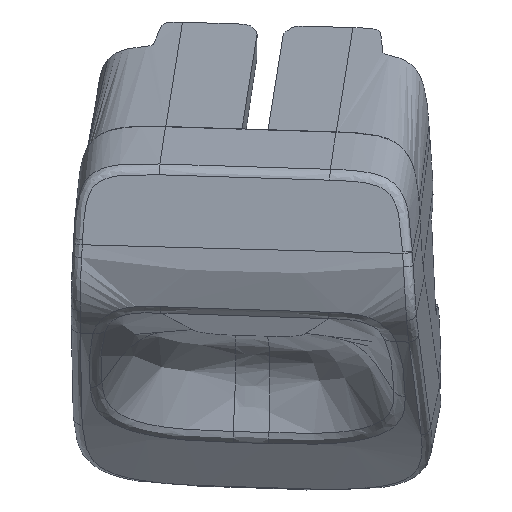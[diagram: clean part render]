
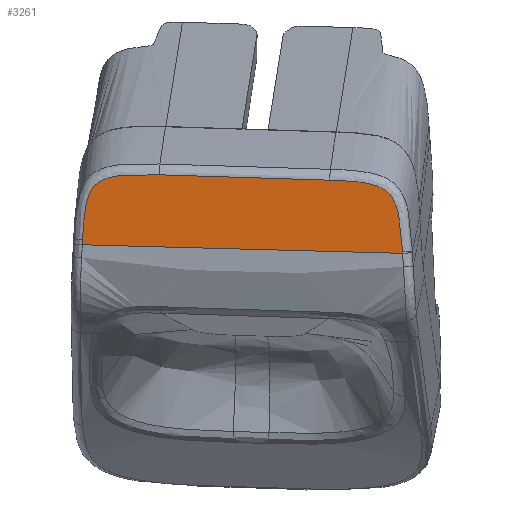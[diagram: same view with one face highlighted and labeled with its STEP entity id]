
A CAD part, top view. The second image highlights one B-rep face of the part: STEP entity #3261.
In plain terms, the highlighted free-form (B-spline) face has degree [1, 1] with [2, 2] control points.
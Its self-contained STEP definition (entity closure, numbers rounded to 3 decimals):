
#3099=CARTESIAN_POINT('Vertex',(-376.796,-964.624,531.923)) ;
#3103=CARTESIAN_POINT('Control Point',(-376.796,-964.624,531.923)) ;
#3104=CARTESIAN_POINT('Control Point',(-381.688,-964.494,531.722)) ;
#3105=CARTESIAN_POINT('Control Point',(-386.589,-964.364,531.52)) ;
#3106=CARTESIAN_POINT('Control Point',(-391.501,-964.233,531.318)) ;
#3107=CARTESIAN_POINT('Control Point',(-396.423,-964.101,531.116)) ;
#3108=CARTESIAN_POINT('Control Point',(-401.359,-963.968,530.913)) ;
#3109=CARTESIAN_POINT('Vertex',(-401.359,-963.968,530.913)) ;
#3168=CARTESIAN_POINT('Control Point',(13.237,-992.557,547.05)) ;
#3169=CARTESIAN_POINT('Control Point',(12.803,-864.692,553.743)) ;
#3170=CARTESIAN_POINT('Control Point',(-623.973,-978.279,520.691)) ;
#3171=CARTESIAN_POINT('Control Point',(-624.432,-850.414,527.383)) ;
#3173=CARTESIAN_POINT('Control Point',(-376.796,-964.624,531.923)) ;
#3174=CARTESIAN_POINT('Control Point',(-376.798,-964.585,531.925)) ;
#3175=CARTESIAN_POINT('Control Point',(-376.8,-964.546,531.927)) ;
#3176=CARTESIAN_POINT('Control Point',(-376.803,-964.505,531.929)) ;
#3177=CARTESIAN_POINT('Vertex',(-376.803,-964.505,531.929)) ;
#3181=CARTESIAN_POINT('Control Point',(-376.803,-964.505,531.929)) ;
#3182=CARTESIAN_POINT('Control Point',(-376.825,-964.088,531.95)) ;
#3183=CARTESIAN_POINT('Control Point',(-376.848,-963.672,531.971)) ;
#3184=CARTESIAN_POINT('Control Point',(-376.876,-963.262,531.991)) ;
#3185=CARTESIAN_POINT('Control Point',(-376.939,-962.551,532.026)) ;
#3186=CARTESIAN_POINT('Control Point',(-377.05,-961.858,532.058)) ;
#3187=CARTESIAN_POINT('Control Point',(-377.109,-961.567,532.07)) ;
#3188=CARTESIAN_POINT('Control Point',(-377.252,-961.018,532.093)) ;
#3189=CARTESIAN_POINT('Control Point',(-377.468,-960.526,532.11)) ;
#3190=CARTESIAN_POINT('Control Point',(-377.594,-960.305,532.116)) ;
#3191=CARTESIAN_POINT('Control Point',(-377.851,-959.98,532.122)) ;
#3192=CARTESIAN_POINT('Control Point',(-378.177,-959.738,532.121)) ;
#3193=CARTESIAN_POINT('Control Point',(-378.337,-959.643,532.119)) ;
#3194=CARTESIAN_POINT('Control Point',(-378.732,-959.453,532.112)) ;
#3195=CARTESIAN_POINT('Control Point',(-379.182,-959.317,532.1)) ;
#3196=CARTESIAN_POINT('Control Point',(-379.447,-959.256,532.092)) ;
#3197=CARTESIAN_POINT('Control Point',(-380.063,-959.146,532.072)) ;
#3198=CARTESIAN_POINT('Control Point',(-380.701,-959.087,532.048)) ;
#3199=CARTESIAN_POINT('Control Point',(-381.061,-959.065,532.034)) ;
#3200=CARTESIAN_POINT('Control Point',(-381.531,-959.043,532.015)) ;
#3201=CARTESIAN_POINT('Control Point',(-382.003,-959.027,531.996)) ;
#3202=CARTESIAN_POINT('Control Point',(-382.167,-959.022,531.989)) ;
#3203=CARTESIAN_POINT('Control Point',(-382.277,-959.018,531.984)) ;
#3204=CARTESIAN_POINT('Control Point',(-382.388,-959.015,531.98)) ;
#3205=CARTESIAN_POINT('Vertex',(-382.388,-959.015,531.98)) ;
#3209=CARTESIAN_POINT('Control Point',(-382.388,-959.015,531.98)) ;
#3210=CARTESIAN_POINT('Control Point',(-386.744,-958.878,531.802)) ;
#3211=CARTESIAN_POINT('Control Point',(-391.101,-958.74,531.624)) ;
#3212=CARTESIAN_POINT('Control Point',(-395.458,-958.603,531.445)) ;
#3213=CARTESIAN_POINT('Vertex',(-395.458,-958.603,531.445)) ;
#3217=CARTESIAN_POINT('Control Point',(-395.458,-958.603,531.445)) ;
#3218=CARTESIAN_POINT('Control Point',(-396.028,-958.585,531.422)) ;
#3219=CARTESIAN_POINT('Control Point',(-396.596,-958.568,531.399)) ;
#3220=CARTESIAN_POINT('Control Point',(-397.149,-958.559,531.376)) ;
#3221=CARTESIAN_POINT('Control Point',(-397.955,-958.579,531.34)) ;
#3222=CARTESIAN_POINT('Control Point',(-398.73,-958.684,531.302)) ;
#3223=CARTESIAN_POINT('Control Point',(-398.97,-958.727,531.289)) ;
#3224=CARTESIAN_POINT('Control Point',(-399.412,-958.833,531.265)) ;
#3225=CARTESIAN_POINT('Control Point',(-399.813,-958.991,531.24)) ;
#3226=CARTESIAN_POINT('Control Point',(-399.993,-959.081,531.227)) ;
#3227=CARTESIAN_POINT('Control Point',(-400.271,-959.258,531.206)) ;
#3228=CARTESIAN_POINT('Control Point',(-400.494,-959.486,531.185)) ;
#3229=CARTESIAN_POINT('Control Point',(-400.584,-959.6,531.175)) ;
#3230=CARTESIAN_POINT('Control Point',(-400.749,-959.863,531.154)) ;
#3231=CARTESIAN_POINT('Control Point',(-400.877,-960.169,531.133)) ;
#3232=CARTESIAN_POINT('Control Point',(-400.934,-960.333,531.122)) ;
#3233=CARTESIAN_POINT('Control Point',(-401.06,-960.764,531.094)) ;
#3234=CARTESIAN_POINT('Control Point',(-401.144,-961.219,531.066)) ;
#3235=CARTESIAN_POINT('Control Point',(-401.184,-961.498,531.05)) ;
#3236=CARTESIAN_POINT('Control Point',(-401.241,-961.998,531.021)) ;
#3237=CARTESIAN_POINT('Control Point',(-401.28,-962.508,530.993)) ;
#3238=CARTESIAN_POINT('Control Point',(-401.294,-962.731,530.98)) ;
#3239=CARTESIAN_POINT('Control Point',(-401.311,-963.025,530.964)) ;
#3240=CARTESIAN_POINT('Control Point',(-401.326,-963.321,530.948)) ;
#3241=CARTESIAN_POINT('Control Point',(-401.331,-963.417,530.943)) ;
#3242=CARTESIAN_POINT('Control Point',(-401.335,-963.487,530.939)) ;
#3243=CARTESIAN_POINT('Control Point',(-401.338,-963.558,530.935)) ;
#3244=CARTESIAN_POINT('Vertex',(-401.338,-963.558,530.935)) ;
#3248=CARTESIAN_POINT('Control Point',(-401.338,-963.558,530.935)) ;
#3249=CARTESIAN_POINT('Control Point',(-401.346,-963.705,530.927)) ;
#3250=CARTESIAN_POINT('Control Point',(-401.353,-963.841,530.92)) ;
#3251=CARTESIAN_POINT('Control Point',(-401.359,-963.968,530.913)) ;
#3111=EDGE_CURVE('',#3100,#3110,#3102,.T.) ;
#3179=EDGE_CURVE('',#3178,#3100,#3172,.F.) ;
#3207=EDGE_CURVE('',#3206,#3178,#3180,.F.) ;
#3215=EDGE_CURVE('',#3214,#3206,#3208,.F.) ;
#3246=EDGE_CURVE('',#3245,#3214,#3216,.F.) ;
#3252=EDGE_CURVE('',#3110,#3245,#3247,.F.) ;
#3254=ORIENTED_EDGE('',*,*,#3179,.F.) ;
#3255=ORIENTED_EDGE('',*,*,#3207,.F.) ;
#3256=ORIENTED_EDGE('',*,*,#3215,.F.) ;
#3257=ORIENTED_EDGE('',*,*,#3246,.F.) ;
#3258=ORIENTED_EDGE('',*,*,#3252,.F.) ;
#3259=ORIENTED_EDGE('',*,*,#3111,.F.) ;
#3261=ADVANCED_FACE('\X2\60AC6D6E9600\X0\-2020.0806',(#3260),#3167,.F.) ;
#3100=VERTEX_POINT('',#3099) ;
#3110=VERTEX_POINT('',#3109) ;
#3178=VERTEX_POINT('',#3177) ;
#3206=VERTEX_POINT('',#3205) ;
#3214=VERTEX_POINT('',#3213) ;
#3245=VERTEX_POINT('',#3244) ;
#3102=B_SPLINE_CURVE_WITH_KNOTS('',5,(#3103,#3104,#3105,#3106,#3107,#3108),.UNSPECIFIED.,.F.,.U.,(6,6),(4695.546,4917.025),.UNSPECIFIED.) ;
#3172=B_SPLINE_CURVE_WITH_KNOTS('',3,(#3173,#3174,#3175,#3176),.UNSPECIFIED.,.F.,.U.,(4,4),(1.665,1.79),.UNSPECIFIED.) ;
#3180=B_SPLINE_CURVE_WITH_KNOTS('',5,(#3181,#3182,#3183,#3184,#3185,#3186,#3187,#3188,#3189,#3190,#3191,#3192,#3193,#3194,#3195,#3196,#3197,#3198,#3199,#3200,#3201,#3202,#3203,#3204),.UNSPECIFIED.,.F.,.U.,(6,3,3,3,3,3,3,6),(3.012,5.97,8.177,10.214,11.792,13.811,16.385,17.166),.UNSPECIFIED.) ;
#3208=B_SPLINE_CURVE_WITH_KNOTS('',3,(#3209,#3210,#3211,#3212),.UNSPECIFIED.,.F.,.U.,(4,4),(16.223,34.731),.UNSPECIFIED.) ;
#3216=B_SPLINE_CURVE_WITH_KNOTS('',5,(#3217,#3218,#3219,#3220,#3221,#3222,#3223,#3224,#3225,#3226,#3227,#3228,#3229,#3230,#3231,#3232,#3233,#3234,#3235,#3236,#3237,#3238,#3239,#3240,#3241,#3242,#3243),.UNSPECIFIED.,.F.,.U.,(6,3,3,3,3,3,3,3,6),(34.716,38.753,40.599,42.271,43.566,44.923,47.018,48.628,49.129),.UNSPECIFIED.) ;
#3247=B_SPLINE_CURVE_WITH_KNOTS('',3,(#3248,#3249,#3250,#3251),.UNSPECIFIED.,.F.,.U.,(4,4),(9.977,10.631),.UNSPECIFIED.) ;
#3167=B_SPLINE_SURFACE_WITH_KNOTS('',1,1,((#3168,#3169),(#3170,#3171)),.UNSPECIFIED.,.F.,.F.,.U.,(2,2),(2,2),(54.171,692.123),(-6.144,121.897),.UNSPECIFIED.) ;
#3253=EDGE_LOOP('',(#3254,#3255,#3256,#3257,#3258,#3259)) ;
#3260=FACE_OUTER_BOUND('',#3253,.T.) ;
